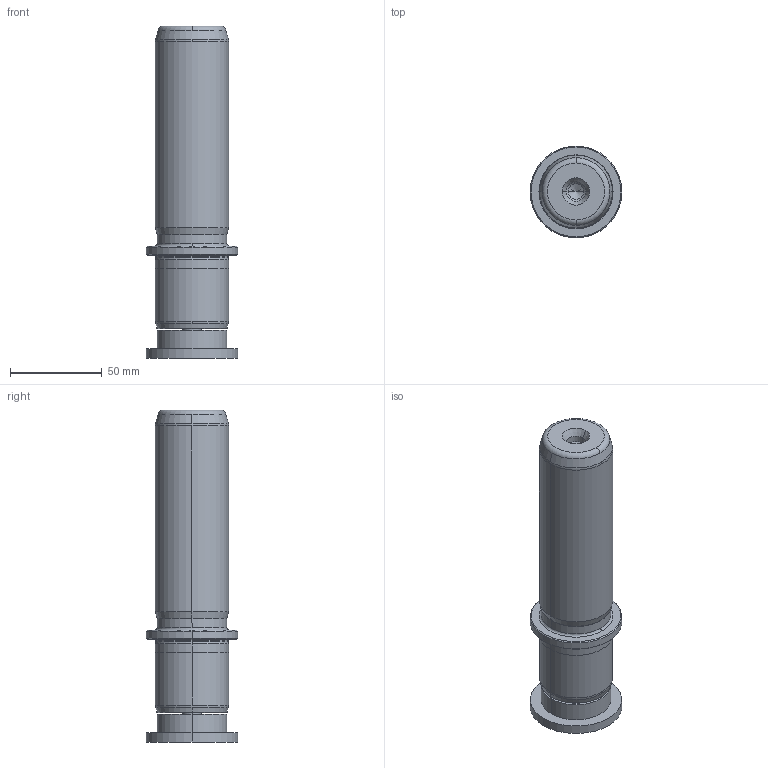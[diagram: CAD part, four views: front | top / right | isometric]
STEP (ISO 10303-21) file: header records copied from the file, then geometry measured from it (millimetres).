
FILE_DESCRIPTION((''),'2;1');
FILE_NAME('P22_040_125.stp','2009-02-16T10:19:14',(''),(''),'Mechanical Desktop 2009','Mechanical Desktop 2009',', , ');
FILE_SCHEMA(('CONFIG_CONTROL_DESIGN'));
Length unit declared in the file: millimetre
Products named in the file (2): Product; blmdl1
Assembly tree (1 placements, depth 2):
  Product
    blmdl1
Bounding box: 50 x 50 x 181 mm (x, y, z)
Volume: 226056.7 mm3; surface area: 34154.2 mm2
Topology: 3 solids, 3 shells, 99 faces, 237 edges, 149 vertices
Faces by surface type: cylinder 32, cone 28, plane 19, torus 10, bspline 10
Entity records: 3419 total; most frequent: CARTESIAN_POINT 923, DIRECTION 570, ORIENTED_EDGE 466, AXIS2_PLACEMENT_3D 246, EDGE_CURVE 233, CIRCLE 155, VERTEX_POINT 149, EDGE_LOOP 110
